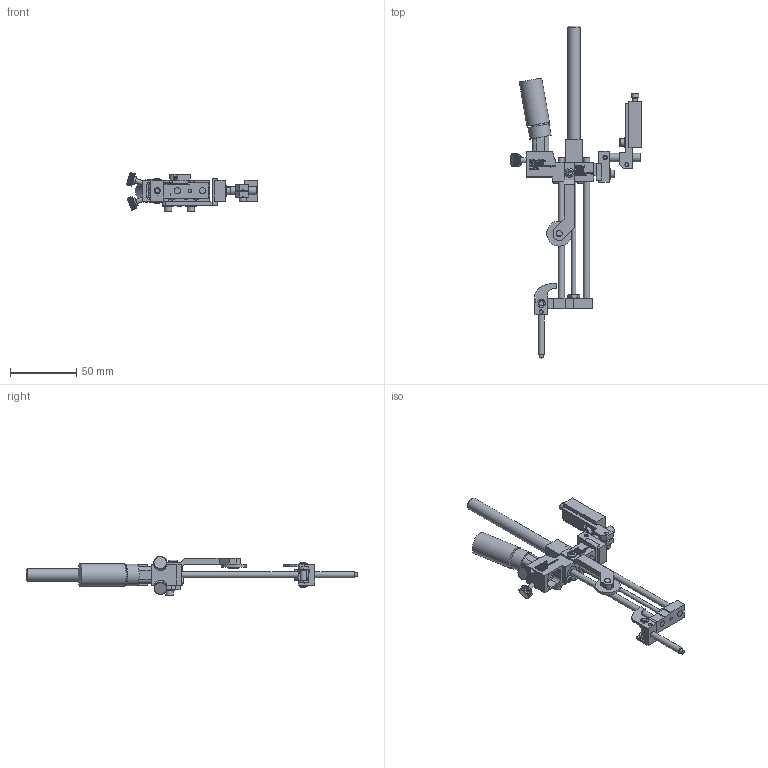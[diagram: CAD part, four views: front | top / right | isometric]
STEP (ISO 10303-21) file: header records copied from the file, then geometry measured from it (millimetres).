
FILE_DESCRIPTION((''),'2;1');
FILE_NAME('C:\Documents and Settings\Ron\My Documents\Inventor\Sprinter Drawing\Machines in Inventor\Model 22\Dot\1-eight\Ext Hd 1in\Brkt\Ext\Model 22 EH1 1-8 dot ext w brkt.stp','2009-01-16T14:24:51',('Ron'),(''),'Autodesk Inventor 2008','Autodesk Inventor 2008','');
FILE_SCHEMA(('AUTOMOTIVE_DESIGN { 1 0 10303 214 1 1 1 1 }'));
Length unit declared in the file: inch
Products named in the file (1): Model 22 EH1 1-8 dot ext w brkt
Bounding box: 99.17 x 251.29 x 29.55 mm (x, y, z)
Volume: 61656.3 mm3; surface area: 36984.5 mm2
Topology: 35 solids, 35 shells, 4725 faces, 13113 edges, 8709 vertices
Faces by surface type: plane 2882, bspline 1287, cylinder 487, cone 55, torus 14
Full cylindrical faces by diameter (mm): 2.845 x3, 2.946 x2, 3.175 x5, 3.493 x1, 3.505 x7, 3.556 x2, 3.658 x1, 3.876 x1, 3.962 x9, 4.064 x1, 4.166 x3, 4.648 x2, 4.699 x1, 4.75 x3, 4.763 x2, 4.788 x1, 5.41 x2, 5.74 x6, 6.096 x1, 6.325 x2, 6.35 x3, 6.477 x1, 6.655 x1, 7.925 x4, 7.938 x3, 8.128 x1, 9.525 x1, 10.922 x1, 11.938 x1, 14.478 x1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
Entity records: 165265 total; most frequent: CARTESIAN_POINT 48867, ORIENTED_EDGE 25666, DIRECTION 18390, EDGE_CURVE 12833, VECTOR 9014, LINE 9014, VERTEX_POINT 8612, EDGE_LOOP 5247
